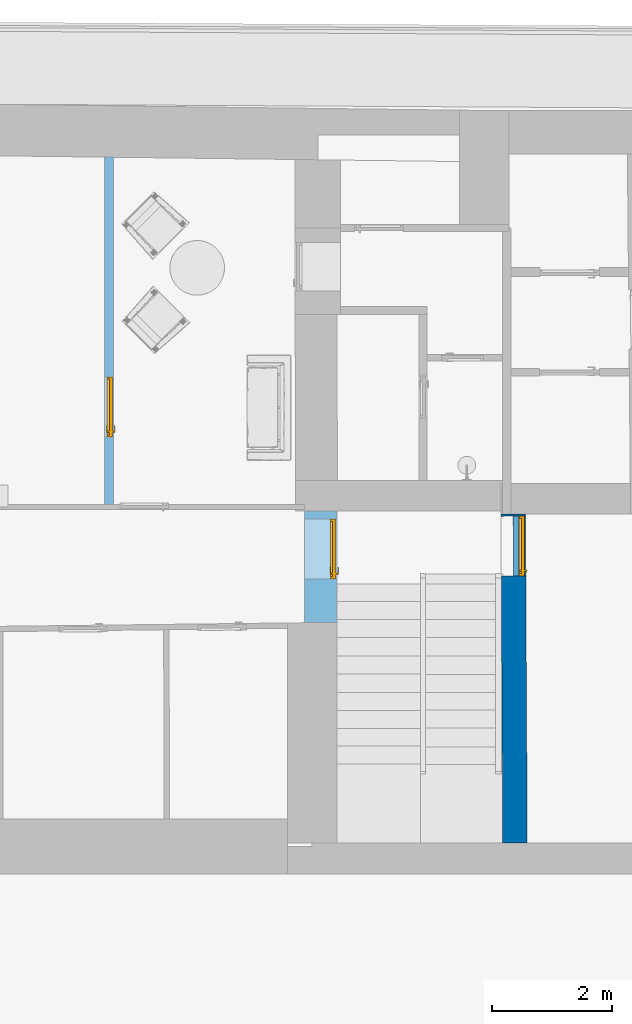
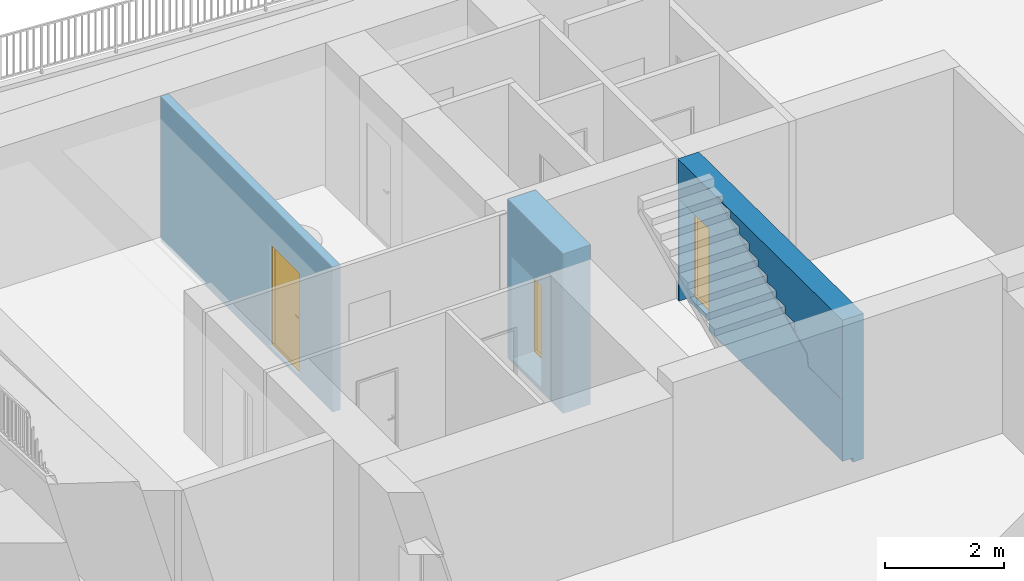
# One storey, part 7 of 17: 3 doors, 1 wall, 4 openings, plus 2 elements that do not belong to this part.
"""IFC2X3 building model written with IfcOpenShell, lengths in millimetres."""

from ifc_helpers import new_model, entity, si_unit, converted_unit, derived_unit, direction, frame, frame_2d, origin, place, context, subcontext, project, spatial, polyline, rectangle, outline, extrude, faceted_brep, source, transform, mapped, material, material_list, layer, layer_set, layer_usage, type_object, type_shapes, element, fill, save


model = new_model("IFC2X3")

# Units and contexts
model_context = context("Model", 3, precision=0.01, world=origin(), true_north=direction((6.12303176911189e-17, 1.0)))
context_of_model = context(None, 3, precision=0.01, world=origin(), true_north=direction((6.12303176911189e-17, 1.0)))
body_context = subcontext(model_context, "Body", "Model", "MODEL_VIEW")
ifc_project = project(units=[si_unit("LENGTHUNIT", "METRE", prefix="MILLI"), si_unit("AREAUNIT", "SQUARE_METRE"), si_unit("VOLUMEUNIT", "CUBIC_METRE"), converted_unit("PLANEANGLEUNIT", "DEGREE", entity("IfcRatioMeasure", 0.0174532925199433), si_unit("PLANEANGLEUNIT", "RADIAN"), dimensions=[0, 0, 0, 0, 0, 0, 0]), si_unit("MASSUNIT", "GRAM", prefix="KILO"), derived_unit("MASSDENSITYUNIT", [(si_unit("MASSUNIT", "GRAM", prefix="KILO"), 1), (si_unit("LENGTHUNIT", "METRE"), -3)]), si_unit("TIMEUNIT", "SECOND"), si_unit("FREQUENCYUNIT", "HERTZ"), si_unit("THERMODYNAMICTEMPERATUREUNIT", "DEGREE_CELSIUS"), derived_unit("THERMALTRANSMITTANCEUNIT", [(si_unit("MASSUNIT", "GRAM", prefix="KILO"), 1), (si_unit("THERMODYNAMICTEMPERATUREUNIT", "KELVIN"), -1), (si_unit("TIMEUNIT", "SECOND"), -3)]), derived_unit("VOLUMETRICFLOWRATEUNIT", [(si_unit("LENGTHUNIT", "METRE"), 3), (si_unit("TIMEUNIT", "SECOND"), -1)]), si_unit("ELECTRICCURRENTUNIT", "AMPERE"), si_unit("ELECTRICVOLTAGEUNIT", "VOLT"), si_unit("POWERUNIT", "WATT"), si_unit("FORCEUNIT", "NEWTON", prefix="KILO"), si_unit("ILLUMINANCEUNIT", "LUX"), si_unit("LUMINOUSFLUXUNIT", "LUMEN"), si_unit("LUMINOUSINTENSITYUNIT", "CANDELA"), derived_unit("USERDEFINED", [(si_unit("MASSUNIT", "GRAM", prefix="KILO"), -1), (si_unit("LENGTHUNIT", "METRE"), -2), (si_unit("TIMEUNIT", "SECOND"), 3), (si_unit("LUMINOUSFLUXUNIT", "LUMEN"), 1)]), derived_unit("LINEARVELOCITYUNIT", [(si_unit("LENGTHUNIT", "METRE"), 1), (si_unit("TIMEUNIT", "SECOND"), -1)]), si_unit("PRESSUREUNIT", "PASCAL"), derived_unit("USERDEFINED", [(si_unit("LENGTHUNIT", "METRE"), -2), (si_unit("MASSUNIT", "GRAM", prefix="KILO"), 1), (si_unit("TIMEUNIT", "SECOND"), -2)])], contexts=[model_context, context_of_model])

# Site, building, storey
site_placement = place(None, frame((121442.264707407, 135347.995453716, -1800.0)))
site = spatial("IfcSite", under=ifc_project, at=site_placement, Name="Surface", CompositionType="ELEMENT")
building_placement = place(site_placement, origin())
building = spatial("IfcBuilding", under=site, at=building_placement, CompositionType="ELEMENT")
storey_placement = place(building_placement, frame((0.0, 0.0, -1490.0)))
storey = spatial("IfcBuildingStorey", under=building, at=storey_placement, Name="Kelder", CompositionType="ELEMENT", Elevation=-1489.99999999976)

# Wall, opening, door
ifc_material_1 = material(Name="__Betoonelement")
ifc_layer_1 = layer(ifc_material_1, 410.0)
ifc_layer_set_1 = layer_set([ifc_layer_1], Name="Basic Wall:41_Betoon 2")
wall_type_1 = type_object("IfcWallType", Name="Basic Wall:41_Betoon 2", PredefinedType="STANDARD", material=ifc_layer_set_1)
wall_1_placement = place(storey_placement, frame((-106318.38161591, -127095.434087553, 0.0), z_axis=(0.0, 0.0, 1.0), x_axis=(-0.00551439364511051, 0.999984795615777, 0.0)))
wall_1 = element("IfcWall", 1, at=wall_1_placement, inside=storey, type_object=wall_type_1, Name="Basic Wall:41_Betoon 2", ObjectType="Basic Wall:41_Betoon 2", context=body_context, shape_type="Brep", body=[
    faceted_brep([(5504.48833724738, -205.0, 2997.0), (4502.43222778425, -205.0, 2997.0), (0.0, -205.0, 2997.0), (0.0, -205.0, 0.0), (5504.48833724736, -205.0, 0.0), (5467.08829673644, -205.0, 2187.0), (5467.08829673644, -205.0, 87.0), (4467.08829673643, -205.0, 87.0), (4467.08829673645, -205.0, 2187.0), (5467.08829673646, 205.0, 87.0), (5467.08829673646, 205.0, 2187.0), (4467.08829673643, 205.0, 2187.0), (4467.08829673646, 205.0, 87.0), (2.26093577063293, 205.0, 87.0), (2.26093577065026, 205.0, 1348.97339745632), (1148.39820989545, 205.0, 1348.97339745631), (1199.38546664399, 205.0, 1588.8459335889), (4219.22752204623, 205.0, 2997.0), (4486.06927258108, 205.0, 2997.0), (4504.693163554, 205.0, 2961.97408791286), (4504.69316355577, 205.0, 2997.0), (5506.74927301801, 205.0, 2997.0), (5506.74927301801, 205.0, 87.0), (1.13046788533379, 0.0, 87.0), (1.13046788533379, 0.0, 0.0), (1.23927436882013, 19.7310595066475, 2997.0), (2.26093577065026, 205.0, 2997.0), (2.26093577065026, 205.0, 1706.48673763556), (2.22393021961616, 198.289382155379, 1706.48673763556), (2.22393021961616, 198.289382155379, 1348.97339745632), (5467.08829673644, 0.0, 87.0), (4467.08829673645, 0.0, 87.0), (5505.61880513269, 0.0, 0.0), (5505.61880513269, 0.0, 87.0), (4504.51924562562, 173.461575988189, 2997.0), (4504.51924562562, 173.461575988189, 2961.97408791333), (4485.8959209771, 173.56427389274, 2997.0), (3132.20464378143, 181.029173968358, 2695.0), (3132.20464378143, 181.029173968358, 2545.0), (3132.33683036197, 205.0, 2545.0), (3132.33683036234, 205.0, 2695.0), (2822.20935714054, 182.738635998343, 2545.0), (2822.3321169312, 205.0, 2545.0), (2822.20935714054, 182.738635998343, 2405.0), (2822.3321169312, 205.0, 2405.0), (2522.21391845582, 184.392954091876, 2405.0), (2522.32755554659, 205.0, 2405.0), (2522.21391845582, 184.392954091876, 2260.0), (2522.32755554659, 205.0, 2260.0), (2222.26417052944, 186.04702022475, 2265.23572193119), (2222.36868630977, 205.0, 2265.23572193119), (2222.26417052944, 186.04702022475, 2125.23572193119), (2222.36868630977, 205.0, 2125.23572193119), (1922.26873184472, 187.701338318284, 2125.23572193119), (1922.36412492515, 205.0, 2125.23572193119), (1922.26873184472, 187.701338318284, 1985.23572193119), (1922.36412492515, 205.0, 1985.23572193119), (1607.27352122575, 189.438372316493, 1985.23572193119), (1607.35933547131, 205.0, 1985.23572193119), (1607.27352122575, 189.438372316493, 1845.23572193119), (1607.35933547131, 205.0, 1845.23572193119), (1312.27800651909, 191.065118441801, 1845.23572193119), (1312.35485010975, 205.0, 1845.23572193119), (1312.27800651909, 191.065118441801, 1706.48673763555), (1312.35485010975, 205.0, 1706.48673763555), (1148.32635198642, 191.969226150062, 1348.97339745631), (1199.31205828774, 191.688066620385, 1588.84593358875), (4219.06228470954, 175.035721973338, 2997.0), (4037.19088381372, 176.038647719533, 2997.0), (4037.19088381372, 176.038647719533, 2980.0), (4037.35059053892, 205.0, 2980.0), (4037.35059053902, 205.0, 2997.0), (3742.19536910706, 177.665393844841, 2980.0), (3742.34610517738, 205.0, 2980.0), (3742.19536910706, 177.665393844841, 2835.0), (3742.34610517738, 205.0, 2835.0), (3437.20000644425, 179.3472839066, 2835.0), (3437.34146776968, 205.0, 2835.0), (3437.20000644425, 179.3472839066, 2695.0), (3437.34146776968, 205.0, 2695.0), (4503.53458977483, -5.09674666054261, 2997.0), (5505.82738556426, 37.8241514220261, 2997.0), (5506.59940067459, 177.82202280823, 2997.0)], [[[0, 1, 2, 3, 4], [5, 6, 7, 8]], [[9, 10, 11, 12, 13, 14, 15, 16, 17, 18, 19, 20, 21, 22]], [[13, 23, 24, 3, 2, 25, 26, 27, 28, 29, 14]], [[5, 10, 9, 30, 6]], [[10, 5, 8, 11]], [[11, 8, 7, 31, 12]], [[7, 6, 30, 31]], [[4, 3, 24, 32]], [[33, 30, 9, 22]], [[31, 30, 33, 32, 24, 23]], [[34, 35, 36]], [[37, 38, 39, 40]], [[38, 41, 42, 39]], [[41, 43, 44, 42]], [[43, 45, 46, 44]], [[45, 47, 48, 46]], [[47, 49, 50, 48]], [[49, 51, 52, 50]], [[51, 53, 54, 52]], [[53, 55, 56, 54]], [[55, 57, 58, 56]], [[57, 59, 60, 58]], [[59, 61, 62, 60]], [[61, 63, 64, 62]], [[63, 28, 27, 64]], [[29, 65, 15, 14]], [[66, 67, 17, 16]], [[65, 66, 16, 15]], [[68, 69, 70, 71]], [[69, 72, 73, 70]], [[72, 74, 75, 73]], [[74, 76, 77, 75]], [[76, 78, 79, 77]], [[78, 37, 40, 79]], [[36, 35, 19, 18]], [[35, 34, 20, 19]], [[26, 25, 80, 34, 36, 18, 17, 67, 68, 71]], [[1, 0, 81, 82, 21, 20, 34, 80, 25, 2]], [[21, 82, 81, 0, 4, 32, 33, 22]], [[72, 69, 68, 67, 66, 65, 29, 28, 63, 61, 59, 57, 55, 53, 51, 49, 47, 45, 43, 41, 38, 37, 78, 76, 74]], [[13, 12, 31, 23]], [[27, 26, 71, 70, 73, 75, 77, 79, 40, 39, 42, 44, 46, 48, 50, 52, 54, 56, 58, 60, 62, 64]]]),
])
opening_1_placement = place(wall_1_placement, frame((5467.08829673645, 205.0, 87.0)))
opening_1 = element("IfcOpeningElement", 2, at=opening_1_placement, cuts=wall_1, Name="sma_D01:1000 x 2100mm SU-9 Tuletokke:1", ObjectType="Opening", context=body_context, shape_type="SweptSolid", body=[
    extrude(rectangle(XDim=2099.99999999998, YDim=1000.0, at=frame_2d((1049.99999999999, 500.0), x_axis=(1.0, 0.0))), frame((0.0, 0.0, 0.0), z_axis=(0.0, -1.0, 0.0), x_axis=(0.0, 0.0, 1.0)), (0.0, 0.0, 1.0), 410.0),
])
ifc_material_2 = material(Name="Metal - Aluminium")
ifc_material_3 = material(Name="Metalli - teras- valge")
ifc_material_list_1 = material_list([ifc_material_2, ifc_material_3])
ifc_material_list_2 = material_list([ifc_material_2, ifc_material_3])
door_style_1 = type_object("IfcDoorStyle", Name="1000 x 2100mm SU-9 Tuletokke", ConstructionType="NOTDEFINED", OperationType="SINGLE_SWING_LEFT", ParameterTakesPrecedence=False, Sizeable=False, material=ifc_material_list_2)
shared_shape_1 = source(origin(), body_context, "Body", "Brep", [
    faceted_brep([(900.0, 300.0, 1112.5), (805.0, 300.0, 1112.5), (805.0, 295.0, 1112.5), (925.0, 295.0, 1112.5), (925.0, 338.0, 1112.5), (900.0, 338.0, 1112.5), (900.0, 300.0, 1087.5), (900.0, 338.0, 1087.5), (925.0, 338.0, 1087.5), (925.0, 295.0, 1087.5), (805.0, 295.0, 1087.5), (805.0, 300.0, 1087.5)], [[[0, 1, 2, 3, 4, 5]], [[6, 7, 8, 9, 10, 11]], [[5, 7, 6, 0]], [[4, 8, 7, 5]], [[3, 9, 8, 4]], [[2, 10, 9, 3]], [[1, 11, 10, 2]], [[0, 6, 11, 1]]]),
    faceted_brep([(887.500000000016, 338.0, 1137.5), (937.500000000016, 338.0, 1137.5), (937.500000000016, 340.0, 1137.5), (887.500000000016, 340.0, 1137.5), (887.500000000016, 338.0, 1017.5), (887.500000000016, 340.0, 1017.5), (937.500000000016, 340.0, 1017.5), (937.500000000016, 338.0, 1017.5)], [[[0, 1, 2, 3]], [[4, 5, 6, 7]], [[3, 5, 4, 0]], [[2, 6, 5, 3]], [[1, 7, 6, 2]], [[0, 4, 7, 1]]]),
    faceted_brep([(900.0, 430.0, 1112.5), (900.0, 392.0, 1112.5), (925.0, 392.0, 1112.5), (925.0, 435.0, 1112.5), (805.0, 435.0, 1112.5), (805.0, 430.0, 1112.5), (900.0, 430.0, 1087.5), (805.0, 430.0, 1087.5), (805.0, 435.0, 1087.5), (925.0, 435.0, 1087.5), (925.0, 392.0, 1087.5), (900.0, 392.0, 1087.5)], [[[0, 1, 2, 3, 4, 5]], [[6, 7, 8, 9, 10, 11]], [[1, 0, 6, 11]], [[2, 1, 11, 10]], [[3, 2, 10, 9]], [[4, 3, 9, 8]], [[5, 4, 8, 7]], [[0, 5, 7, 6]]]),
    faceted_brep([(887.500000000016, 392.0, 1137.5), (887.500000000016, 390.0, 1137.5), (937.500000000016, 390.0, 1137.5), (937.500000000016, 392.0, 1137.5), (887.500000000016, 392.0, 1017.5), (937.500000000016, 392.0, 1017.5), (937.500000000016, 390.0, 1017.5), (887.500000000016, 390.0, 1017.5)], [[[0, 1, 2, 3]], [[4, 5, 6, 7]], [[1, 0, 4, 7]], [[2, 1, 7, 6]], [[3, 2, 6, 5]], [[0, 3, 5, 4]]]),
    faceted_brep([(0.0, 300.0, 0.0), (0.0, 390.0, 0.0), (25.0, 390.0, 0.0), (25.0, 340.0, 0.0), (40.0, 340.0, 0.0), (40.0, 300.0, 0.0), (40.0, 300.0, 2060.0), (960.0, 300.0, 2060.0), (960.0, 300.0, 0.0), (1000.0, 300.0, 0.0), (1000.0, 300.0, 2100.0), (0.0, 300.0, 2100.0), (40.0, 340.0, 2060.0), (25.0, 340.0, 2075.0), (975.0, 340.0, 2075.0), (975.0, 340.0, 0.0), (960.0, 340.0, 0.0), (960.0, 340.0, 2060.0), (25.0, 390.0, 2075.0), (0.0, 390.0, 2100.0), (1000.0, 390.0, 2100.0), (1000.0, 390.0, 0.0), (975.0, 390.0, 0.0), (975.0, 390.0, 2075.0)], [[[0, 1, 2, 3, 4, 5]], [[5, 6, 7, 8, 9, 10, 11, 0]], [[4, 12, 6, 5]], [[3, 13, 14, 15, 16, 17, 12, 4]], [[2, 18, 13, 3]], [[1, 19, 20, 21, 22, 23, 18, 2]], [[0, 11, 19, 1]], [[10, 9, 21, 20]], [[9, 8, 16, 15, 22, 21]], [[17, 16, 8, 7]], [[23, 22, 15, 14]], [[12, 17, 7, 6]], [[18, 23, 14, 13]], [[11, 10, 20, 19]]]),
    faceted_brep([(975.0, 340.0, 2075.0), (25.0, 340.0, 2075.0), (25.0, 340.0, 20.0), (975.0, 340.0, 20.0), (975.0, 390.0, 2075.0), (975.0, 390.0, 20.0), (25.0, 390.0, 20.0), (25.0, 390.0, 2075.0)], [[[0, 1, 2, 3]], [[4, 5, 6, 7]], [[3, 5, 4, 0]], [[2, 6, 5, 3]], [[1, 7, 6, 2]], [[0, 4, 7, 1]]]),
    faceted_brep([(40.0, 300.0, 30.0), (40.0, 340.0, 30.0), (40.0, 340.0, 20.0), (40.0, 340.0, 0.0), (40.0, 300.0, 0.0), (960.0, 300.0, 30.0), (960.0, 300.0, 0.0), (960.0, 340.0, 0.0), (960.0, 340.0, 20.0), (960.0, 340.0, 30.0), (25.0, 340.0, 0.0), (25.0, 390.0, 0.0), (975.0, 390.0, 0.0), (975.0, 340.0, 0.0), (25.0, 390.0, 20.0), (25.0, 340.0, 20.0), (975.0, 390.0, 20.0), (975.0, 340.0, 20.0)], [[[0, 1, 2, 3, 4]], [[5, 6, 7, 8, 9]], [[4, 6, 5, 0]], [[3, 10, 11, 12, 13, 7, 6, 4]], [[9, 8, 2, 1]], [[0, 5, 9, 1]], [[14, 11, 10, 15]], [[16, 17, 13, 12]], [[15, 2, 8, 17, 16, 14]], [[10, 3, 2, 15]], [[14, 16, 12, 11]], [[17, 8, 7, 13]]]),
])
type_shapes(door_style_1, [shared_shape_1])
door_1_placement = place(opening_1_placement, frame((0.0, 0.0, 0.0), z_axis=(0.0, 0.0, 1.0), x_axis=(-1.0, 0.0, 0.0)))
door_1 = element("IfcDoor", 3, at=door_1_placement, inside=storey, type_object=door_style_1, material=ifc_material_list_1, Name="sma_D01:1000 x 2100mm SU-9 Tuletokke", ObjectType="1000 x 2100mm SU-9 Tuletokke", OverallHeight=2099.99999999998, OverallWidth=1000.0, context=body_context, shape_type="MappedRepresentation", body=[
    mapped(shared_shape_1, transform((0.0, 0.0, 0.0), scale=1.0)),
])
fill(opening_1, door_1)

# Wall, openings, door
ifc_layer_2 = layer(ifc_material_1, 540.0)
ifc_layer_set_2 = layer_set([ifc_layer_2], Name="Basic Wall:54_Betoon 2")
ifc_layer_usage_1 = layer_usage(ifc_layer_set_2, "AXIS2", "POSITIVE", -270.0)
wall_type_2 = type_object("IfcWallType", Name="Basic Wall:54_Betoon 2", PredefinedType="STANDARD", material=ifc_layer_set_2)
wall_2_placement = place(storey_placement, frame((-109569.148081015, -123410.742455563, 0.0), z_axis=(0.0, 0.0, 1.0), x_axis=(0.0, 1.0, 0.0)))
wall_2 = element("IfcWallStandardCase", 4, at=wall_2_placement, inside=storey, type_object=wall_type_2, material=ifc_layer_usage_1, Name="Basic Wall:54_Betoon 2", ObjectType="Basic Wall:54_Betoon 2", context=body_context, shape_type="SweptSolid", body=[
    extrude(outline(polyline([(1869.99400321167, -270.0), (1869.99400321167, 0.0), (1869.99400321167, 270.0), (0.0, 270.0), (6.40227349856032, -270.0), (1869.99400321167, -270.0)])), origin(), (0.0, 0.0, 1.0), 3290.0),
])
opening_2_placement = place(wall_2_placement, origin())
element("IfcOpeningElement", 5, at=opening_2_placement, cuts=wall_2, Name="Basic Wall:54_Betoon 2", ObjectType="Opening", context=body_context, shape_type="SweptSolid", body=[
    extrude(rectangle(XDim=2099.99999999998, YDim=89.9999999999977, at=frame_2d((0.0, 0.0), x_axis=(0.0, 1.0))), frame((-56.5315271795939, 1242.36034339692, 1140.0), z_axis=(-0.0118552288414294, 0.999929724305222, 0.0), x_axis=(-0.999929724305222, -0.0118552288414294, 0.0)), (0.0, 0.0, 1.0), 809.999999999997),
])
opening_3_placement = place(wall_2_placement, frame((1734.99400321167, 270.0, 90.0)))
opening_3 = element("IfcOpeningElement", 6, at=opening_3_placement, cuts=wall_2, Name="sma_D01:1000 x 2100mm SU-9 Tuletokke:1", ObjectType="Opening", context=body_context, shape_type="SweptSolid", body=[
    extrude(rectangle(XDim=2099.99999999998, YDim=1000.0, at=frame_2d((1049.99999999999, 500.0), x_axis=(1.0, 0.0))), frame((0.0, 0.0, 0.0), z_axis=(0.0, -1.0, 0.0), x_axis=(0.0, 0.0, 1.0)), (0.0, 0.0, 1.0), 540.0),
])
ifc_material_list_3 = material_list([ifc_material_2, ifc_material_3])
ifc_material_list_4 = material_list([ifc_material_2, ifc_material_3])
door_style_2 = type_object("IfcDoorStyle", Name="1000 x 2100mm SU-9 Tuletokke", ConstructionType="NOTDEFINED", OperationType="SINGLE_SWING_LEFT", ParameterTakesPrecedence=False, Sizeable=False, material=ifc_material_list_4)
shared_shape_2 = source(origin(), body_context, "Body", "Brep", [
    faceted_brep([(900.0, 430.0, 1112.5), (805.0, 430.0, 1112.5), (805.0, 425.0, 1112.5), (925.0, 425.0, 1112.5), (925.0, 468.0, 1112.5), (900.0, 468.0, 1112.5), (900.0, 430.0, 1087.5), (900.0, 468.0, 1087.5), (925.0, 468.0, 1087.5), (925.0, 425.0, 1087.5), (805.0, 425.0, 1087.5), (805.0, 430.0, 1087.5)], [[[0, 1, 2, 3, 4, 5]], [[6, 7, 8, 9, 10, 11]], [[5, 7, 6, 0]], [[4, 8, 7, 5]], [[3, 9, 8, 4]], [[2, 10, 9, 3]], [[1, 11, 10, 2]], [[0, 6, 11, 1]]]),
    faceted_brep([(887.500000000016, 468.0, 1137.5), (937.500000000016, 468.0, 1137.5), (937.500000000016, 470.0, 1137.5), (887.500000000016, 470.0, 1137.5), (887.500000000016, 468.0, 1017.5), (887.500000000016, 470.0, 1017.5), (937.500000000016, 470.0, 1017.5), (937.500000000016, 468.0, 1017.5)], [[[0, 1, 2, 3]], [[4, 5, 6, 7]], [[3, 5, 4, 0]], [[2, 6, 5, 3]], [[1, 7, 6, 2]], [[0, 4, 7, 1]]]),
    faceted_brep([(900.0, 560.0, 1112.5), (900.0, 522.0, 1112.5), (925.0, 522.0, 1112.5), (925.0, 565.0, 1112.5), (805.0, 565.0, 1112.5), (805.0, 560.0, 1112.5), (900.0, 560.0, 1087.5), (805.0, 560.0, 1087.5), (805.0, 565.0, 1087.5), (925.0, 565.0, 1087.5), (925.0, 522.0, 1087.5), (900.0, 522.0, 1087.5)], [[[0, 1, 2, 3, 4, 5]], [[6, 7, 8, 9, 10, 11]], [[1, 0, 6, 11]], [[2, 1, 11, 10]], [[3, 2, 10, 9]], [[4, 3, 9, 8]], [[5, 4, 8, 7]], [[0, 5, 7, 6]]]),
    faceted_brep([(887.500000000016, 522.0, 1137.5), (887.500000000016, 520.0, 1137.5), (937.500000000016, 520.0, 1137.5), (937.500000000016, 522.0, 1137.5), (887.500000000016, 522.0, 1017.5), (937.500000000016, 522.0, 1017.5), (937.500000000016, 520.0, 1017.5), (887.500000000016, 520.0, 1017.5)], [[[0, 1, 2, 3]], [[4, 5, 6, 7]], [[1, 0, 4, 7]], [[2, 1, 7, 6]], [[3, 2, 6, 5]], [[0, 3, 5, 4]]]),
    faceted_brep([(0.0, 430.0, 0.0), (0.0, 520.0, 0.0), (25.0, 520.0, 0.0), (25.0, 470.0, 0.0), (40.0, 470.0, 0.0), (40.0, 430.0, 0.0), (40.0, 430.0, 2060.0), (960.0, 430.0, 2060.0), (960.0, 430.0, 0.0), (1000.0, 430.0, 0.0), (1000.0, 430.0, 2100.0), (0.0, 430.0, 2100.0), (40.0, 470.0, 2060.0), (25.0, 470.0, 2075.0), (975.0, 470.0, 2075.0), (975.0, 470.0, 0.0), (960.0, 470.0, 0.0), (960.0, 470.0, 2060.0), (25.0, 520.0, 2075.0), (0.0, 520.0, 2100.0), (1000.0, 520.0, 2100.0), (1000.0, 520.0, 0.0), (975.0, 520.0, 0.0), (975.0, 520.0, 2075.0)], [[[0, 1, 2, 3, 4, 5]], [[5, 6, 7, 8, 9, 10, 11, 0]], [[4, 12, 6, 5]], [[3, 13, 14, 15, 16, 17, 12, 4]], [[2, 18, 13, 3]], [[1, 19, 20, 21, 22, 23, 18, 2]], [[0, 11, 19, 1]], [[10, 9, 21, 20]], [[9, 8, 16, 15, 22, 21]], [[17, 16, 8, 7]], [[23, 22, 15, 14]], [[12, 17, 7, 6]], [[18, 23, 14, 13]], [[11, 10, 20, 19]]]),
    faceted_brep([(975.0, 470.0, 2075.0), (25.0, 470.0, 2075.0), (25.0, 470.0, 20.0), (975.0, 470.0, 20.0), (975.0, 520.0, 2075.0), (975.0, 520.0, 20.0), (25.0, 520.0, 20.0), (25.0, 520.0, 2075.0)], [[[0, 1, 2, 3]], [[4, 5, 6, 7]], [[3, 5, 4, 0]], [[2, 6, 5, 3]], [[1, 7, 6, 2]], [[0, 4, 7, 1]]]),
    faceted_brep([(40.0, 430.0, 30.0), (40.0, 470.0, 30.0), (40.0, 470.0, 20.0), (40.0, 470.0, 0.0), (40.0, 430.0, 0.0), (960.0, 430.0, 30.0), (960.0, 430.0, 0.0), (960.0, 470.0, 0.0), (960.0, 470.0, 20.0), (960.0, 470.0, 30.0), (25.0, 470.0, 0.0), (25.0, 520.0, 0.0), (975.0, 520.0, 0.0), (975.0, 470.0, 0.0), (25.0, 520.0, 20.0), (25.0, 470.0, 20.0), (975.0, 520.0, 20.0), (975.0, 470.0, 20.0)], [[[0, 1, 2, 3, 4]], [[5, 6, 7, 8, 9]], [[4, 6, 5, 0]], [[3, 10, 11, 12, 13, 7, 6, 4]], [[9, 8, 2, 1]], [[0, 5, 9, 1]], [[14, 11, 10, 15]], [[16, 17, 13, 12]], [[15, 2, 8, 17, 16, 14]], [[10, 3, 2, 15]], [[14, 16, 12, 11]], [[17, 8, 7, 13]]]),
])
type_shapes(door_style_2, [shared_shape_2])
door_2_placement = place(opening_3_placement, frame((0.0, 0.0, 0.0), z_axis=(0.0, 0.0, 1.0), x_axis=(-1.0, 0.0, 0.0)))
door_2 = element("IfcDoor", 7, at=door_2_placement, inside=storey, type_object=door_style_2, material=ifc_material_list_3, Name="sma_D01:1000 x 2100mm SU-9 Tuletokke", ObjectType="1000 x 2100mm SU-9 Tuletokke", OverallHeight=2099.99999999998, OverallWidth=999.999999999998, context=body_context, shape_type="MappedRepresentation", body=[
    mapped(shared_shape_2, transform((0.0, 0.0, 0.0), scale=1.0)),
])
fill(opening_3, door_2)

# Wall, opening, door
ifc_material_4 = material(Name="Plaster")
ifc_layer_3 = layer(ifc_material_4, 10.0)
ifc_material_5 = material(Name="EST. Müüritis. Väikeplokk. Kergkruusplokk")
ifc_layer_4 = layer(ifc_material_5, 130.0)
ifc_layer_5 = layer(ifc_material_4, 10.0)
ifc_layer_set_3 = layer_set([ifc_layer_3, ifc_layer_4, ifc_layer_5], Name="Basic Wall:15_FIBO")
ifc_layer_usage_2 = layer_usage(ifc_layer_set_3, "AXIS2", "NEGATIVE", 75.0)
wall_type_3 = type_object("IfcWallType", Name="Basic Wall:15_FIBO", PredefinedType="STANDARD", material=ifc_layer_set_3)
wall_3_placement = place(storey_placement, frame((-113111.358493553, -121429.923072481, 0.0), z_axis=(0.0, 0.0, 1.0), x_axis=(0.0, 1.0, 0.0)))
wall_3 = element("IfcWallStandardCase", 8, at=wall_3_placement, inside=storey, type_object=wall_type_3, material=ifc_layer_usage_2, Name="Basic Wall:15_FIBO", ObjectType="Basic Wall:15_FIBO", context=body_context, shape_type="SweptSolid", body=[
    extrude(outline(polyline([(5807.53322390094, -75.0), (5809.39463787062, 75.0), (0.0, 75.0), (0.0, -75.0), (5807.53322390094, -75.0)])), origin(), (0.0, 0.0, 1.0), 2990.0),
])
opening_4_placement = place(wall_3_placement, frame((2133.20309958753, 75.0, 90.0)))
opening_4 = element("IfcOpeningElement", 9, at=opening_4_placement, cuts=wall_3, Name="sma_D01:1010 x 2110_SU-03 Siseuks:1", ObjectType="Opening", context=body_context, shape_type="SweptSolid", body=[
    extrude(rectangle(XDim=2099.99999999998, YDim=1010.0, at=frame_2d((1049.99999999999, 505.0), x_axis=(1.0, 0.0))), frame((0.0, 0.0, 0.0), z_axis=(0.0, -1.0, 0.0), x_axis=(0.0, 0.0, 1.0)), (0.0, 0.0, 1.0), 150.0),
])
ifc_material_6 = material(Name="Door - Panel_valge")
ifc_material_list_5 = material_list([ifc_material_2, ifc_material_6])
ifc_material_list_6 = material_list([ifc_material_2, ifc_material_6])
door_style_3 = type_object("IfcDoorStyle", Name="1010 x 2110_SU-03 Siseuks", ConstructionType="USERDEFINED", OperationType="SINGLE_SWING_LEFT", ParameterTakesPrecedence=False, Sizeable=False, material=ifc_material_list_6)
shared_shape_3 = source(origin(), body_context, "Body", "Brep", [
    faceted_brep([(910.0, 40.0, 1112.5), (815.0, 40.0, 1112.5), (815.0, 35.0, 1112.5), (935.0, 35.0, 1112.5), (935.0, 78.0, 1112.5), (910.0, 78.0, 1112.5), (910.0, 40.0, 1087.5), (910.0, 78.0, 1087.5), (935.0, 78.0, 1087.5), (935.0, 35.0, 1087.5), (815.0, 35.0, 1087.5), (815.0, 40.0, 1087.5)], [[[0, 1, 2, 3, 4, 5]], [[6, 7, 8, 9, 10, 11]], [[5, 7, 6, 0]], [[4, 8, 7, 5]], [[3, 9, 8, 4]], [[2, 10, 9, 3]], [[1, 11, 10, 2]], [[0, 6, 11, 1]]]),
    faceted_brep([(897.500000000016, 78.0, 1137.5), (947.500000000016, 78.0, 1137.5), (947.500000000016, 80.0, 1137.5), (897.500000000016, 80.0, 1137.5), (897.500000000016, 78.0, 1017.5), (897.500000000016, 80.0, 1017.5), (947.500000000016, 80.0, 1017.5), (947.500000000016, 78.0, 1017.5)], [[[0, 1, 2, 3]], [[4, 5, 6, 7]], [[3, 5, 4, 0]], [[2, 6, 5, 3]], [[1, 7, 6, 2]], [[0, 4, 7, 1]]]),
    faceted_brep([(910.0, 170.0, 1112.5), (910.0, 132.0, 1112.5), (935.0, 132.0, 1112.5), (935.0, 175.0, 1112.5), (815.0, 175.0, 1112.5), (815.0, 170.0, 1112.5), (910.0, 170.0, 1087.5), (815.0, 170.0, 1087.5), (815.0, 175.0, 1087.5), (935.0, 175.0, 1087.5), (935.0, 132.0, 1087.5), (910.0, 132.0, 1087.5)], [[[0, 1, 2, 3, 4, 5]], [[6, 7, 8, 9, 10, 11]], [[1, 0, 6, 11]], [[2, 1, 11, 10]], [[3, 2, 10, 9]], [[4, 3, 9, 8]], [[5, 4, 8, 7]], [[0, 5, 7, 6]]]),
    faceted_brep([(897.500000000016, 132.0, 1137.5), (897.500000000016, 130.0, 1137.5), (947.500000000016, 130.0, 1137.5), (947.500000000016, 132.0, 1137.5), (897.500000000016, 132.0, 1017.5), (947.500000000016, 132.0, 1017.5), (947.500000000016, 130.0, 1017.5), (897.500000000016, 130.0, 1017.5)], [[[0, 1, 2, 3]], [[4, 5, 6, 7]], [[1, 0, 4, 7]], [[2, 1, 7, 6]], [[3, 2, 6, 5]], [[0, 3, 5, 4]]]),
    faceted_brep([(0.0, 40.0, 0.0), (0.0, 130.0, 0.0), (25.0, 130.0, 0.0), (25.0, 80.0, 0.0), (40.0, 80.0, 0.0), (40.0, 40.0, 0.0), (40.0, 40.0, 2060.0), (970.0, 40.0, 2060.0), (970.0, 40.0, 0.0), (1010.0, 40.0, 0.0), (1010.0, 40.0, 2100.0), (0.0, 40.0, 2100.0), (40.0, 80.0, 2060.0), (25.0, 80.0, 2075.0), (985.0, 80.0, 2075.0), (985.0, 80.0, 0.0), (970.0, 80.0, 0.0), (970.0, 80.0, 2060.0), (25.0, 130.0, 2075.0), (0.0, 130.0, 2100.0), (1010.0, 130.0, 2100.0), (1010.0, 130.0, 0.0), (985.0, 130.0, 0.0), (985.0, 130.0, 2075.0)], [[[0, 1, 2, 3, 4, 5]], [[5, 6, 7, 8, 9, 10, 11, 0]], [[4, 12, 6, 5]], [[3, 13, 14, 15, 16, 17, 12, 4]], [[2, 18, 13, 3]], [[1, 19, 20, 21, 22, 23, 18, 2]], [[0, 11, 19, 1]], [[10, 9, 21, 20]], [[9, 8, 16, 15, 22, 21]], [[17, 16, 8, 7]], [[23, 22, 15, 14]], [[12, 17, 7, 6]], [[18, 23, 14, 13]], [[11, 10, 20, 19]]]),
    faceted_brep([(985.0, 80.0, 2075.0), (25.0, 80.0, 2075.0), (25.0, 80.0, 20.0), (985.0, 80.0, 20.0), (985.0, 130.0, 2075.0), (985.0, 130.0, 20.0), (25.0, 130.0, 20.0), (25.0, 130.0, 2075.0)], [[[0, 1, 2, 3]], [[4, 5, 6, 7]], [[3, 5, 4, 0]], [[2, 6, 5, 3]], [[1, 7, 6, 2]], [[0, 4, 7, 1]]]),
    faceted_brep([(40.0, 40.0, 30.0), (40.0, 80.0, 30.0), (40.0, 80.0, 20.0), (40.0, 80.0, 0.0), (40.0, 40.0, 0.0), (970.0, 40.0, 30.0), (970.0, 40.0, 0.0), (970.0, 80.0, 0.0), (970.0, 80.0, 20.0), (970.0, 80.0, 30.0), (25.0, 80.0, 0.0), (25.0, 130.0, 0.0), (985.0, 130.0, 0.0), (985.0, 80.0, 0.0), (25.0, 130.0, 20.0), (25.0, 80.0, 20.0), (985.0, 130.0, 20.0), (985.0, 80.0, 20.0)], [[[0, 1, 2, 3, 4]], [[5, 6, 7, 8, 9]], [[4, 6, 5, 0]], [[3, 10, 11, 12, 13, 7, 6, 4]], [[9, 8, 2, 1]], [[0, 5, 9, 1]], [[14, 11, 10, 15]], [[16, 17, 13, 12]], [[15, 2, 8, 17, 16, 14]], [[10, 3, 2, 15]], [[14, 16, 12, 11]], [[17, 8, 7, 13]]]),
])
type_shapes(door_style_3, [shared_shape_3])
door_3_placement = place(opening_4_placement, frame((0.0, 0.0, 0.0), z_axis=(0.0, 0.0, 1.0), x_axis=(-1.0, 0.0, 0.0)))
door_3 = element("IfcDoor", 10, at=door_3_placement, inside=storey, type_object=door_style_3, material=ifc_material_list_5, Name="sma_D01:1010 x 2110_SU-03 Siseuks", ObjectType="1010 x 2110_SU-03 Siseuks", OverallHeight=2099.99999999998, OverallWidth=1010.0, context=body_context, shape_type="MappedRepresentation", body=[
    mapped(shared_shape_3, transform((0.0, 0.0, 0.0), scale=1.0)),
])
fill(opening_4, door_3)

save(model, "model.ifc")
